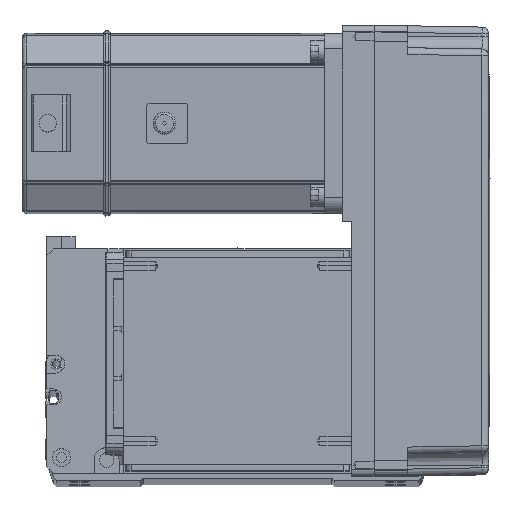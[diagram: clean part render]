
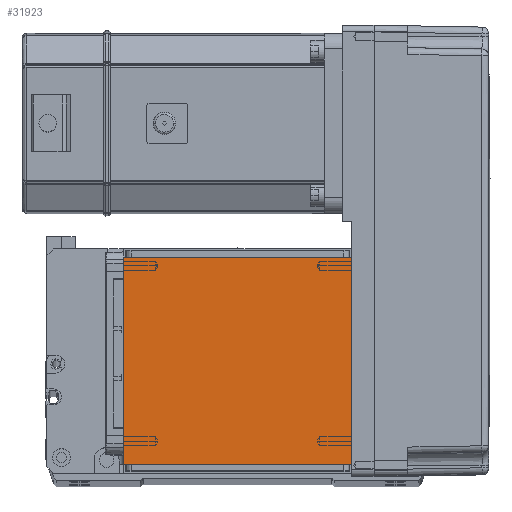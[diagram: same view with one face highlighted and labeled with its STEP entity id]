
A CAD part, top view. The second image highlights one B-rep face of the part: STEP entity #31923.
In plain terms, the highlighted planar face has unit normal (0, 0, 1).
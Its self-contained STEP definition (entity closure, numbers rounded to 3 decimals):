
#3291 = ORIENTED_EDGE ( 'NONE', *, *, #14769, .F. ) ;
#4816 = DIRECTION ( 'NONE',  ( -1., 0., 0. ) ) ;
#5557 = ORIENTED_EDGE ( 'NONE', *, *, #39637, .T. ) ;
#6526 = CARTESIAN_POINT ( 'NONE',  ( 50.5, 111.5, 115. ) ) ;
#7292 = DIRECTION ( 'NONE',  ( 1., 0., 0. ) ) ;
#8763 = PLANE ( 'NONE',  #11868 ) ;
#9585 = DIRECTION ( 'NONE',  ( 0., 0., 1. ) ) ;
#10170 = LINE ( 'NONE', #16462, #39320 ) ;
#10423 = FACE_OUTER_BOUND ( 'NONE', #43661, .T. ) ;
#11868 = AXIS2_PLACEMENT_3D ( 'NONE', #15033, #9585, #14439 ) ;
#14439 = DIRECTION ( 'NONE',  ( 1., 0., 0. ) ) ;
#14769 = EDGE_CURVE ( 'NONE', #55394, #42187, #10170, .T. ) ;
#15033 = CARTESIAN_POINT ( 'NONE',  ( 0., 0., 115. ) ) ;
#16462 = CARTESIAN_POINT ( 'NONE',  ( -70.004, 111.5, 115. ) ) ;
#18035 = VECTOR ( 'NONE', #38343, 1000. ) ;
#18087 = VERTEX_POINT ( 'NONE', #34381 ) ;
#25177 = VECTOR ( 'NONE', #4816, 1000. ) ;
#25553 = VECTOR ( 'NONE', #32525, 1000. ) ;
#26099 = ORIENTED_EDGE ( 'NONE', *, *, #56683, .T. ) ;
#31196 = CARTESIAN_POINT ( 'NONE',  ( 50.5, 20., 115. ) ) ;
#31923 = ADVANCED_FACE ( 'NONE', ( #10423 ), #8763, .T. ) ;
#32525 = DIRECTION ( 'NONE',  ( 0., 1., 0. ) ) ;
#34066 = CARTESIAN_POINT ( 'NONE',  ( -50.5, 122., 115. ) ) ;
#34381 = CARTESIAN_POINT ( 'NONE',  ( -50.5, 20., 115. ) ) ;
#36774 = CARTESIAN_POINT ( 'NONE',  ( 50.5, 122., 115. ) ) ;
#38343 = DIRECTION ( 'NONE',  ( 0., -1., 0. ) ) ;
#39008 = VERTEX_POINT ( 'NONE', #31196 ) ;
#39320 = VECTOR ( 'NONE', #7292, 1000. ) ;
#39637 = EDGE_CURVE ( 'NONE', #39008, #42187, #53146, .T. ) ;
#40624 = CARTESIAN_POINT ( 'NONE',  ( -50.5, 111.5, 115. ) ) ;
#40638 = LINE ( 'NONE', #34066, #18035 ) ;
#41259 = CARTESIAN_POINT ( 'NONE',  ( -70.004, 20., 115. ) ) ;
#42187 = VERTEX_POINT ( 'NONE', #6526 ) ;
#42909 = ORIENTED_EDGE ( 'NONE', *, *, #52137, .F. ) ;
#43661 = EDGE_LOOP ( 'NONE', ( #3291, #26099, #42909, #5557 ) ) ;
#44854 = LINE ( 'NONE', #41259, #25177 ) ;
#52137 = EDGE_CURVE ( 'NONE', #39008, #18087, #44854, .T. ) ;
#53146 = LINE ( 'NONE', #36774, #25553 ) ;
#55394 = VERTEX_POINT ( 'NONE', #40624 ) ;
#56683 = EDGE_CURVE ( 'NONE', #55394, #18087, #40638, .T. ) ;
